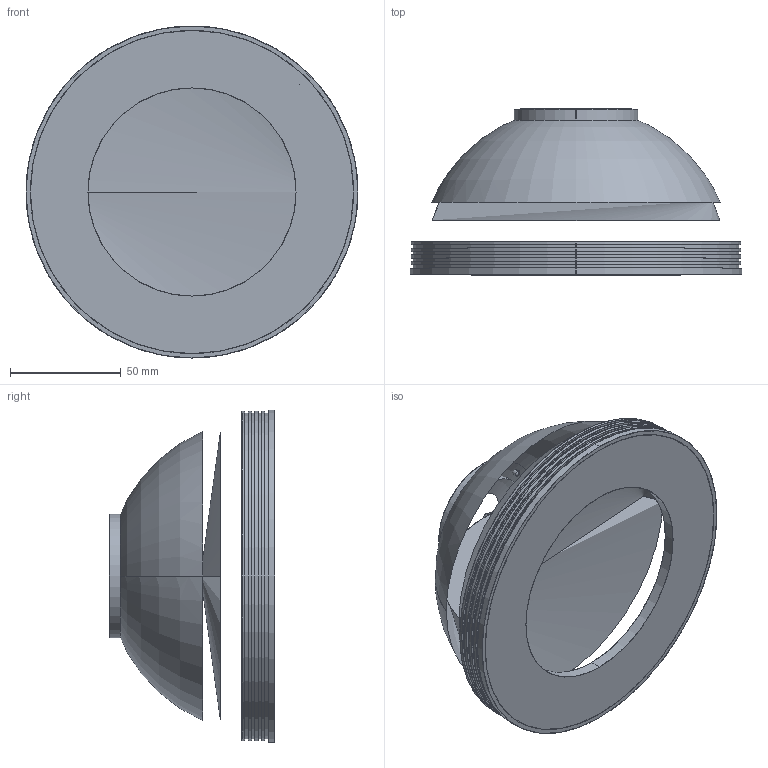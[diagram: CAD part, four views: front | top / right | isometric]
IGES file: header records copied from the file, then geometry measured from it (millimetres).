
Start section: SolidWorks IGES file using analytic representation for surfaces
Global section: file name: Z:\新款图纸\标准产品\碗光\DM150\ED\DM150.IGS; native system: SolidWorks 2018; preprocessor: SolidWorks 2018; author: Qi Peng; date: 190618.141235; units: millimetre
Bounding box: 150 x 74.88 x 150 mm (x, y, z)
Surface area: 97965.3 mm2 (no closed solid volume)
Topology: 0 solids, 0 shells, 236 faces, 4224 edges, 4216 vertices
Faces by surface type: bspline 126, revolution 110
